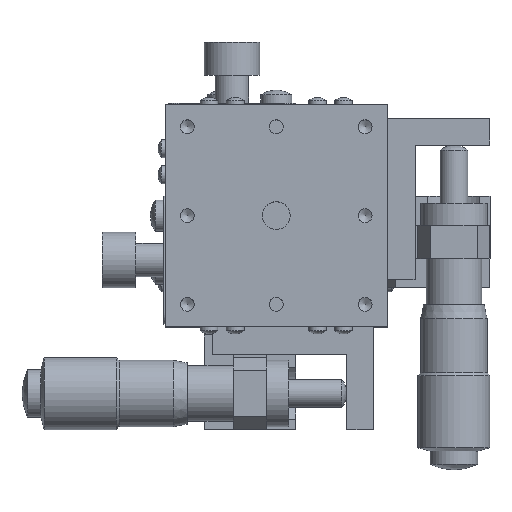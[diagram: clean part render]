
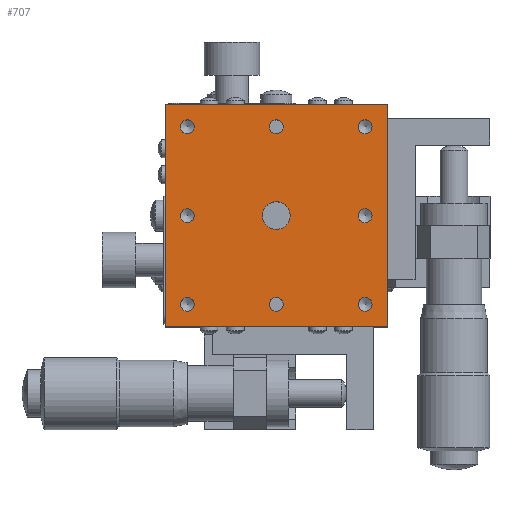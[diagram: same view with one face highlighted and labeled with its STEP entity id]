
A CAD part, top view. The second image highlights one B-rep face of the part: STEP entity #707.
In plain terms, the highlighted planar face has unit normal (0, 0, 1).
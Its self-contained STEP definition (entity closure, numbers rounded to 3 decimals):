
#707 = ADVANCED_FACE( '', ( #1648, #1649, #1650, #1651, #1652, #1653, #1654, #1655, #1656, #1657 ), #1658, .T. );
#1648 = FACE_BOUND( '', #2855, .T. );
#1649 = FACE_BOUND( '', #2856, .T. );
#1650 = FACE_BOUND( '', #2857, .T. );
#1651 = FACE_BOUND( '', #2858, .T. );
#1652 = FACE_BOUND( '', #2859, .T. );
#1653 = FACE_BOUND( '', #2860, .T. );
#1654 = FACE_BOUND( '', #2861, .T. );
#1655 = FACE_BOUND( '', #2862, .T. );
#1656 = FACE_OUTER_BOUND( '', #2863, .T. );
#1657 = FACE_BOUND( '', #2864, .T. );
#1658 = PLANE( '', #2865 );
#2855 = EDGE_LOOP( '', ( #4729 ) );
#2856 = EDGE_LOOP( '', ( #4730 ) );
#2857 = EDGE_LOOP( '', ( #4731 ) );
#2858 = EDGE_LOOP( '', ( #4732 ) );
#2859 = EDGE_LOOP( '', ( #4733 ) );
#2860 = EDGE_LOOP( '', ( #4734 ) );
#2861 = EDGE_LOOP( '', ( #4735 ) );
#2862 = EDGE_LOOP( '', ( #4736 ) );
#2863 = EDGE_LOOP( '', ( #4737, #4738, #4739, #4740 ) );
#2864 = EDGE_LOOP( '', ( #4741 ) );
#2865 = AXIS2_PLACEMENT_3D( '', #4742, #4743, #4744 );
#4729 = ORIENTED_EDGE( '', *, *, #6342, .T. );
#4730 = ORIENTED_EDGE( '', *, *, #6650, .T. );
#4731 = ORIENTED_EDGE( '', *, *, #6651, .T. );
#4732 = ORIENTED_EDGE( '', *, *, #6086, .T. );
#4733 = ORIENTED_EDGE( '', *, *, #6129, .T. );
#4734 = ORIENTED_EDGE( '', *, *, #6652, .T. );
#4735 = ORIENTED_EDGE( '', *, *, #6232, .T. );
#4736 = ORIENTED_EDGE( '', *, *, #6653, .T. );
#4737 = ORIENTED_EDGE( '', *, *, #6407, .F. );
#4738 = ORIENTED_EDGE( '', *, *, #6215, .F. );
#4739 = ORIENTED_EDGE( '', *, *, #6551, .F. );
#4740 = ORIENTED_EDGE( '', *, *, #6654, .F. );
#4741 = ORIENTED_EDGE( '', *, *, #6655, .T. );
#4742 = CARTESIAN_POINT( '', ( 0., 0., 40. ) );
#4743 = DIRECTION( '', ( 0., 0., 1. ) );
#4744 = DIRECTION( '', ( 1., 0., 0. ) );
#6086 = EDGE_CURVE( '', #7106, #7106, #7107, .T. );
#6129 = EDGE_CURVE( '', #7178, #7178, #7179, .T. );
#6215 = EDGE_CURVE( '', #7322, #7325, #7326, .T. );
#6232 = EDGE_CURVE( '', #7353, #7353, #7354, .T. );
#6342 = EDGE_CURVE( '', #7532, #7532, #7533, .T. );
#6407 = EDGE_CURVE( '', #7325, #7639, #7640, .T. );
#6551 = EDGE_CURVE( '', #7867, #7322, #7869, .T. );
#6650 = EDGE_CURVE( '', #8008, #8008, #8009, .T. );
#6651 = EDGE_CURVE( '', #8010, #8010, #8011, .T. );
#6652 = EDGE_CURVE( '', #8012, #8012, #8013, .T. );
#6653 = EDGE_CURVE( '', #8014, #8014, #8015, .T. );
#6654 = EDGE_CURVE( '', #7639, #7867, #8016, .T. );
#6655 = EDGE_CURVE( '', #8017, #8017, #8018, .T. );
#7106 = VERTEX_POINT( '', #8563 );
#7107 = CIRCLE( '', #8564, 1.25 );
#7178 = VERTEX_POINT( '', #8655 );
#7179 = CIRCLE( '', #8656, 1.25 );
#7322 = VERTEX_POINT( '', #8838 );
#7325 = VERTEX_POINT( '', #8842 );
#7326 = LINE( '', #8843, #8844 );
#7353 = VERTEX_POINT( '', #8879 );
#7354 = CIRCLE( '', #8880, 1.25 );
#7532 = VERTEX_POINT( '', #9122 );
#7533 = CIRCLE( '', #9123, 1.25 );
#7639 = VERTEX_POINT( '', #9260 );
#7640 = LINE( '', #9261, #9262 );
#7867 = VERTEX_POINT( '', #9577 );
#7869 = LINE( '', #9580, #9581 );
#8008 = VERTEX_POINT( '', #9765 );
#8009 = CIRCLE( '', #9766, 1.25 );
#8010 = VERTEX_POINT( '', #9767 );
#8011 = CIRCLE( '', #9768, 1.25 );
#8012 = VERTEX_POINT( '', #9769 );
#8013 = CIRCLE( '', #9770, 1.25 );
#8014 = VERTEX_POINT( '', #9771 );
#8015 = CIRCLE( '', #9772, 1.25 );
#8016 = LINE( '', #9773, #9774 );
#8017 = VERTEX_POINT( '', #9775 );
#8018 = CIRCLE( '', #9776, 2.5 );
#8563 = CARTESIAN_POINT( '', ( 16., 14.75, 40. ) );
#8564 = AXIS2_PLACEMENT_3D( '', #10355, #10356, #10357 );
#8655 = CARTESIAN_POINT( '', ( 16., -1.25, 40. ) );
#8656 = AXIS2_PLACEMENT_3D( '', #10408, #10409, #10410 );
#8838 = CARTESIAN_POINT( '', ( 20., 20., 40. ) );
#8842 = CARTESIAN_POINT( '', ( 20., -20., 40. ) );
#8843 = CARTESIAN_POINT( '', ( 20., 0., 40. ) );
#8844 = VECTOR( '', #10523, 1000. );
#8879 = CARTESIAN_POINT( '', ( 0., -17.25, 40. ) );
#8880 = AXIS2_PLACEMENT_3D( '', #10544, #10545, #10546 );
#9122 = CARTESIAN_POINT( '', ( -16., -1.25, 40. ) );
#9123 = AXIS2_PLACEMENT_3D( '', #10668, #10669, #10670 );
#9260 = CARTESIAN_POINT( '', ( -20., -20., 40. ) );
#9261 = CARTESIAN_POINT( '', ( 0., -20., 40. ) );
#9262 = VECTOR( '', #10750, 1000. );
#9577 = CARTESIAN_POINT( '', ( -20., 20., 40. ) );
#9580 = CARTESIAN_POINT( '', ( 0., 20., 40. ) );
#9581 = VECTOR( '', #10909, 1000. );
#9765 = CARTESIAN_POINT( '', ( -16., 14.75, 40. ) );
#9766 = AXIS2_PLACEMENT_3D( '', #11018, #11019, #11020 );
#9767 = CARTESIAN_POINT( '', ( 0., 14.75, 40. ) );
#9768 = AXIS2_PLACEMENT_3D( '', #11021, #11022, #11023 );
#9769 = CARTESIAN_POINT( '', ( 16., -17.25, 40. ) );
#9770 = AXIS2_PLACEMENT_3D( '', #11024, #11025, #11026 );
#9771 = CARTESIAN_POINT( '', ( -16., -17.25, 40. ) );
#9772 = AXIS2_PLACEMENT_3D( '', #11027, #11028, #11029 );
#9773 = CARTESIAN_POINT( '', ( -20., 0., 40. ) );
#9774 = VECTOR( '', #11030, 1000. );
#9775 = CARTESIAN_POINT( '', ( 2.5, 0., 40. ) );
#9776 = AXIS2_PLACEMENT_3D( '', #11031, #11032, #11033 );
#10355 = CARTESIAN_POINT( '', ( 16., 16., 40. ) );
#10356 = DIRECTION( '', ( 0., 0., -1. ) );
#10357 = DIRECTION( '', ( 0., -1., 0. ) );
#10408 = CARTESIAN_POINT( '', ( 16., 0., 40. ) );
#10409 = DIRECTION( '', ( 0., 0., -1. ) );
#10410 = DIRECTION( '', ( 0., -1., 0. ) );
#10523 = DIRECTION( '', ( 0., -1., 0. ) );
#10544 = CARTESIAN_POINT( '', ( 0., -16., 40. ) );
#10545 = DIRECTION( '', ( 0., 0., -1. ) );
#10546 = DIRECTION( '', ( 0., -1., 0. ) );
#10668 = CARTESIAN_POINT( '', ( -16., 0., 40. ) );
#10669 = DIRECTION( '', ( 0., 0., -1. ) );
#10670 = DIRECTION( '', ( 0., -1., 0. ) );
#10750 = DIRECTION( '', ( -1., 0., 0. ) );
#10909 = DIRECTION( '', ( 1., 0., 0. ) );
#11018 = CARTESIAN_POINT( '', ( -16., 16., 40. ) );
#11019 = DIRECTION( '', ( 0., 0., -1. ) );
#11020 = DIRECTION( '', ( 0., -1., 0. ) );
#11021 = CARTESIAN_POINT( '', ( 0., 16., 40. ) );
#11022 = DIRECTION( '', ( 0., 0., -1. ) );
#11023 = DIRECTION( '', ( 0., -1., 0. ) );
#11024 = CARTESIAN_POINT( '', ( 16., -16., 40. ) );
#11025 = DIRECTION( '', ( 0., 0., -1. ) );
#11026 = DIRECTION( '', ( 0., -1., 0. ) );
#11027 = CARTESIAN_POINT( '', ( -16., -16., 40. ) );
#11028 = DIRECTION( '', ( 0., 0., -1. ) );
#11029 = DIRECTION( '', ( 0., -1., 0. ) );
#11030 = DIRECTION( '', ( 0., 1., 0. ) );
#11031 = CARTESIAN_POINT( '', ( 0., 0., 40. ) );
#11032 = DIRECTION( '', ( 0., 0., -1. ) );
#11033 = DIRECTION( '', ( 1., 0., 0. ) );
